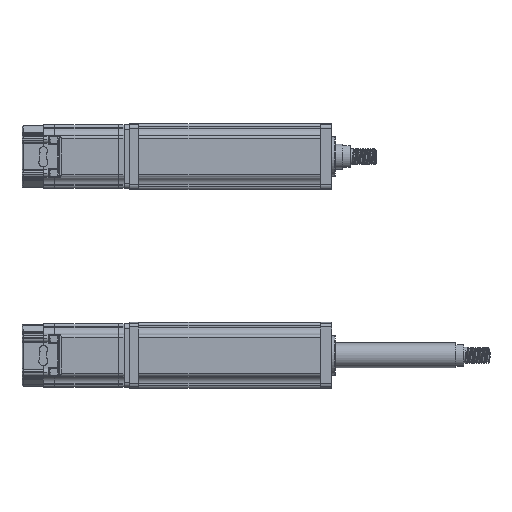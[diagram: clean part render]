
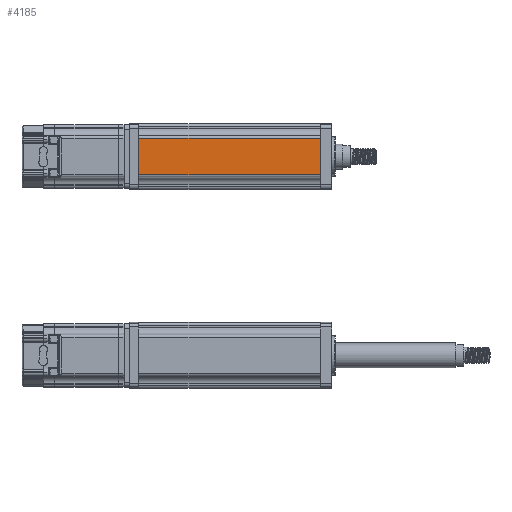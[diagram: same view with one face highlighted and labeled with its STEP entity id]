
A CAD part, top view. The second image highlights one B-rep face of the part: STEP entity #4185.
In plain terms, the highlighted planar face has unit normal (0, 0, 1).
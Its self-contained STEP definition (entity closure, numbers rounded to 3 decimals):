
#4185=ADVANCED_FACE('',(#8300),#8301,.F.);
#8300=FACE_OUTER_BOUND('',#22449,.T.);
#8301=PLANE('',#22450);
#22449=EDGE_LOOP('',(#33921,#33922,#33923,#33924));
#22450=AXIS2_PLACEMENT_3D('',#33925,#33926,#33927);
#33921=ORIENTED_EDGE('',*,*,#40285,.F.);
#33922=ORIENTED_EDGE('',*,*,#40200,.F.);
#33923=ORIENTED_EDGE('',*,*,#35908,.F.);
#33924=ORIENTED_EDGE('',*,*,#39834,.F.);
#33925=CARTESIAN_POINT('',(604.0,182.885,203.67));
#33926=DIRECTION('',(0.,0.,-1.0));
#33927=DIRECTION('',(1.0,0.,0.));
#35908=EDGE_CURVE('',#41130,#41132,#41133,.T.);
#39834=EDGE_CURVE('',#47046,#41130,#47048,.T.);
#40200=EDGE_CURVE('',#41132,#47459,#47460,.T.);
#40285=EDGE_CURVE('',#47459,#47046,#47550,.T.);
#41130=VERTEX_POINT('',#49161);
#41132=VERTEX_POINT('',#49163);
#41133=LINE('',#49164,#49165);
#47046=VERTEX_POINT('',#82141);
#47048=LINE('',#82143,#82144);
#47459=VERTEX_POINT('',#86585);
#47460=LINE('',#86586,#86587);
#47550=LINE('',#86707,#86708);
#49161=CARTESIAN_POINT('',(604.0,182.885,203.67));
#49163=CARTESIAN_POINT('',(764.0,182.885,203.67));
#49164=CARTESIAN_POINT('',(684.0,182.885,203.67));
#49165=VECTOR('',#87379,1.0);
#82141=CARTESIAN_POINT('',(604.0,150.885,203.67));
#82143=CARTESIAN_POINT('',(604.0,166.885,203.67));
#82144=VECTOR('',#91976,1.0);
#86585=CARTESIAN_POINT('',(764.0,150.885,203.67));
#86586=CARTESIAN_POINT('',(764.0,166.885,203.67));
#86587=VECTOR('',#92219,1.0);
#86707=CARTESIAN_POINT('',(684.0,150.885,203.67));
#86708=VECTOR('',#92271,1.0);
#87379=DIRECTION('',(1.0,0.,0.));
#91976=DIRECTION('',(0.,1.0,0.0));
#92219=DIRECTION('',(0.,-1.0,0.0));
#92271=DIRECTION('',(-1.0,0.,0.));
